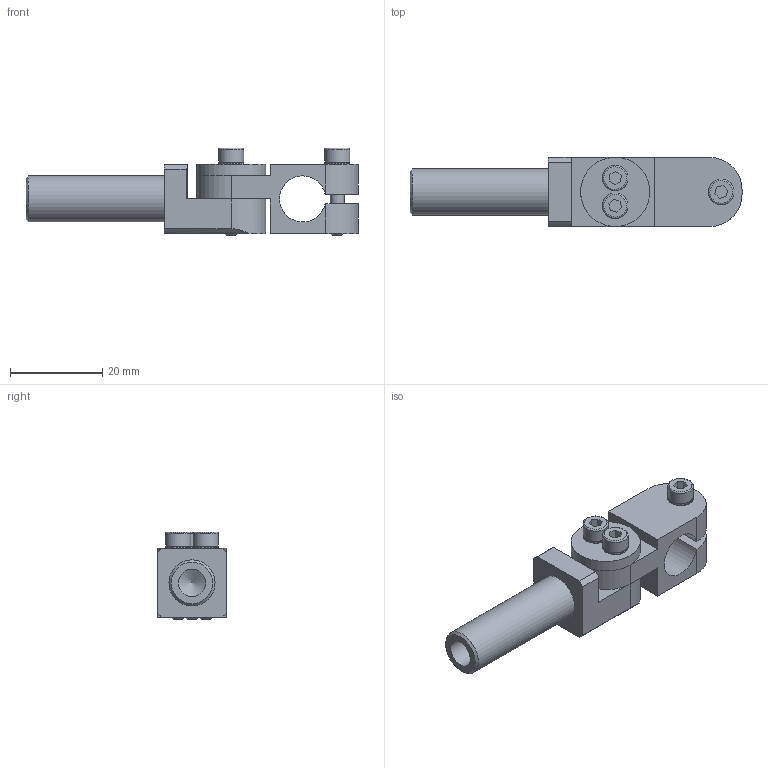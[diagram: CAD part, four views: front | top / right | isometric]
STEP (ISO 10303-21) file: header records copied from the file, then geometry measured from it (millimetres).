
FILE_DESCRIPTION(('STEP AP214'),'1');
FILE_NAME('CA.GVR.1010.30.stp','2020-09-21T09:31:26',(' '),(' '),'Spatial InterOp 3D',' ',' ');
FILE_SCHEMA(('AUTOMOTIVE_DESIGN { 1 0 10303 214 1 1 1 1 }'));
Length unit declared in the file: millimetre
Products named in the file (6): CA.GVR.1010.30; GVR.10.1.30; GVR.10.2; GVR.10.3; R.3.SCH; V.TCE3x16
Assembly tree (9 placements, depth 2):
  CA.GVR.1010.30
    GVR.10.1.30
    GVR.10.2
    GVR.10.3
    R.3.SCH  x3
    V.TCE3x16  x3
Bounding box: 72 x 15 x 19 mm (x, y, z)
Volume: 8867.4 mm3; surface area: 6972.9 mm2
Topology: 9 solids, 9 shells, 684 faces, 2091 edges, 1427 vertices
Faces by surface type: plane 634, cylinder 39, torus 6, cone 5
Full cylindrical faces by diameter (mm): 2.5 x2, 2.7 x1, 3 x3, 3.2 x3, 3.5 x3, 5.5 x6, 6 x1, 9.9 x1, 10 x1, 10.1 x1, 15 x1
Entity records: 11454 total; most frequent: CARTESIAN_POINT 1591, DIRECTION 1575, ORIENTED_EDGE 1538, EDGE_CURVE 769, VERTEX_POINT 536, AXIS2_PLACEMENT_3D 532, LINE 511, VECTOR 511
